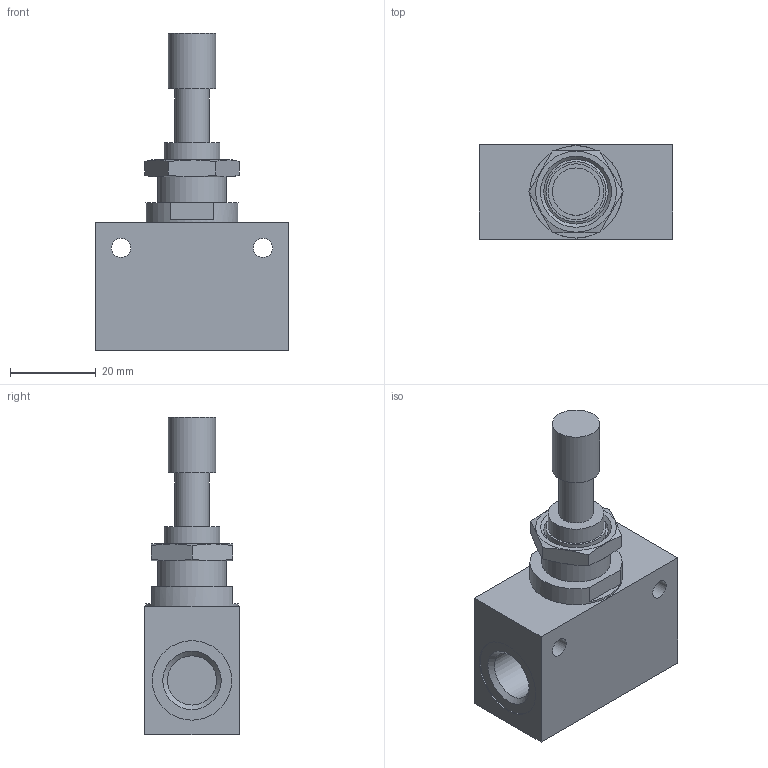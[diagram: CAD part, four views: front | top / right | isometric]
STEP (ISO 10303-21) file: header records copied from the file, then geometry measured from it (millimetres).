
FILE_DESCRIPTION(/* description */ (''),/* implementation_level */ '2;1');
FILE_NAME(/* name */ 'I:\Area Tecnica\Disegni\VARIE-3D\Componenti\600\6_01_14-1N.stp',/* time_stamp */ '2017-01-04T08:26:44+01:00',/* author */ ('maniean1'),/* organization */ ('Pneumax S.p.A.'),/* preprocessor_version */ 'ST-DEVELOPER v15.2',/* originating_system */ 'Autodesk Inventor 2014',/* authorisation */ '');
FILE_SCHEMA (('AUTOMOTIVE_DESIGN { 1 0 10303 214 3 1 1 }'));
Length unit declared in the file: millimetre
Products named in the file (3): 6_01_14N(A); 6_01_14N(B); 6_01_14-1N
Bounding box: 45 x 22 x 74 mm (x, y, z)
Volume: 32884.3 mm3; surface area: 9809.6 mm2
Topology: 2 solids, 2 shells, 47 faces, 95 edges, 61 vertices
Faces by surface type: plane 27, cylinder 13, cone 7
Full cylindrical faces by diameter (mm): 4.5 x2, 8 x1, 11 x1, 11.445 x2, 13 x1, 14 x1, 15 x1, 16 x1, 18.5 x2, 21.5 x1
Entity records: 1212 total; most frequent: CARTESIAN_POINT 208, DIRECTION 200, ORIENTED_EDGE 146, AXIS2_PLACEMENT_3D 87, EDGE_LOOP 82, EDGE_CURVE 73, VERTEX_POINT 59, ADVANCED_FACE 47
